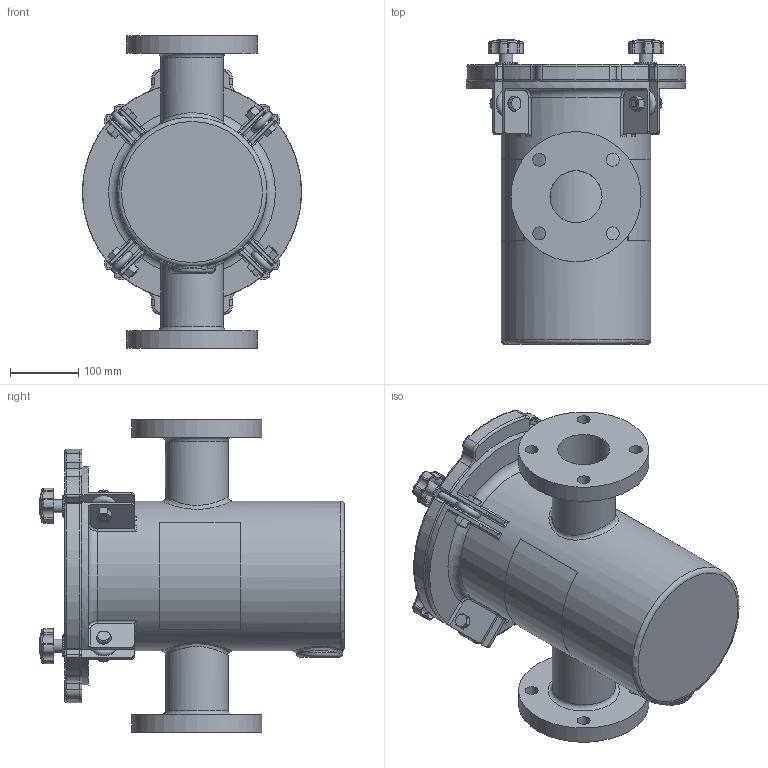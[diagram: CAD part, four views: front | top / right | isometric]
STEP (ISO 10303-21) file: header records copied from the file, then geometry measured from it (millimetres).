
FILE_DESCRIPTION(/* description */ ('STRAINER BODY'),/* implementation_level */ '2;1');
FILE_NAME(/* name */ '\\chntshnas1\IP_PUMPS\NeptuneBenson\Project Execution\WIP\Ready for delivery - Do not Disturb -Updated with metric Flange\Workspace\FG Straight Strainer\1500NBFG03R1.stp',/* time_stamp */ '2016-10-18T19:37:30+05:00',/* author */ ('20076253'),/* organization */ (''),/* preprocessor_version */ 'ST-DEVELOPER v16.1',/* originating_system */ 'Autodesk Inventor 2016',/* authorisation */ '');
FILE_SCHEMA (('AUTOMOTIVE_DESIGN { 1 0 10303 214 3 1 1 }'));
Length unit declared in the file: inch
Products named in the file (18): NBFG03BODYR1; 150NBCVR13R1; 150NBGSK08R1; Perforated Basket 8in; Bride (Ring) 8in; Baffle 8in; Handle 8in; Bottom Strainer 8in; NBBSK04T316; Nut- 1_2  UNC; Bolt-1_2 x 1 1_2  UNC; EyeBolt; Washer; Knob M10; Securing Assembly For FG without Brace; Label for 8.625 inch (Right); Label for 8.625 inch (Left); Guardian FG H&L Strainer (Inch)
Assembly tree (20 placements, depth 3):
  Guardian FG H&L Strainer (Inch)
    NBFG03BODYR1
    150NBCVR13R1
    150NBGSK08R1
    NBBSK04T316
      Perforated Basket 8in
      Bride (Ring) 8in
      Baffle 8in
      Handle 8in
      Bottom Strainer 8in
    Securing Assembly For FG without Brace  x4
      Nut- 1_2  UNC
      Bolt-1_2 x 1 1_2  UNC
      EyeBolt
      Washer
      Knob M10
    Label for 8.625 inch (Right)
    Label for 8.625 inch (Left)
Bounding box: 320.68 x 446.18 x 457.2 mm (x, y, z)
Volume: 7167621.3 mm3; surface area: 1718069.2 mm2
Topology: 30 solids, 30 shells, 923 faces, 2116 edges, 1255 vertices
Faces by surface type: cylinder 336, plane 248, torus 94, cone 92, bspline 85, sphere 68
Full cylindrical faces by diameter (mm): 3.175 x10, 6.35 x1, 8.382 x4, 9.525 x8, 10.592 x4, 12.7 x4, 15.875 x8, 19 x8, 19.05 x12, 22.809 x1, 31.75 x4, 76.2 x2, 92.075 x2, 142.875 x2, 146.05 x1, 148.59 x1, 190.5 x2, 203.2 x2, 212.725 x1, 219.075 x1, 222.25 x1, 257.175 x1, 263.525 x1
Entity records: 20224 total; most frequent: CARTESIAN_POINT 6929, DIRECTION 2763, ORIENTED_EDGE 2474, EDGE_CURVE 1237, AXIS2_PLACEMENT_3D 1165, VERTEX_POINT 785, EDGE_LOOP 714, CIRCLE 573
